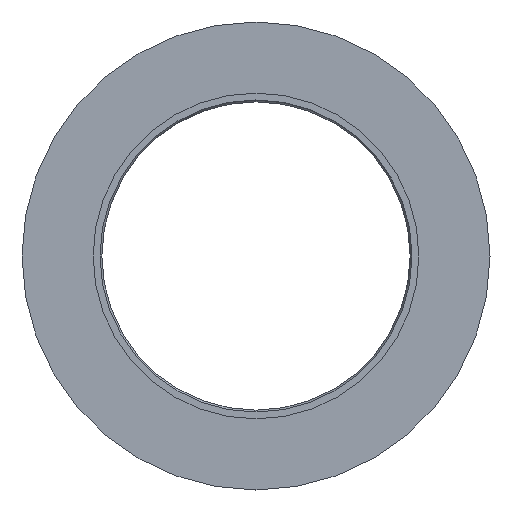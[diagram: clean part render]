
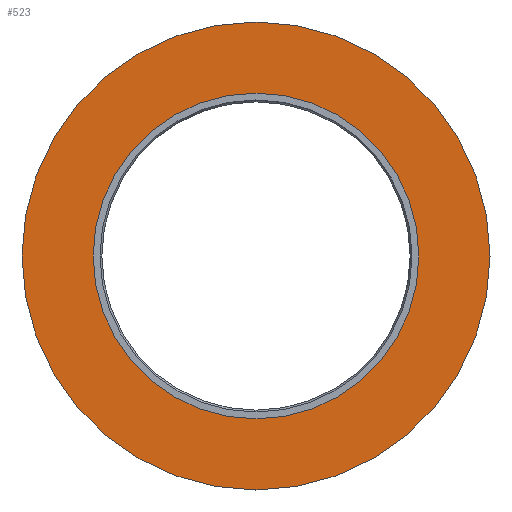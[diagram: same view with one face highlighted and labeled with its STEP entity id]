
A CAD part, left-side view. The second image highlights one B-rep face of the part: STEP entity #523.
In plain terms, the highlighted planar face has unit normal (-1, 0, 0).
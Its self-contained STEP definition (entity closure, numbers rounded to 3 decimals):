
#389=CARTESIAN_POINT('',(-16.,-37.5,0.));
#390=VERTEX_POINT('',#389);
#391=CARTESIAN_POINT('',(-16.0,0.,0.));
#392=DIRECTION('',(1.0,0.0,0.0));
#393=DIRECTION('',(0.0,-1.0,0.0));
#394=AXIS2_PLACEMENT_3D('',#391,#392,#393);
#395=CIRCLE('',#394,37.5);
#396=EDGE_CURVE('',#390,#390,#395,.T.);
#497=CARTESIAN_POINT('',(-16.,-26.1,0.));
#498=VERTEX_POINT('',#497);
#499=CARTESIAN_POINT('',(-16.0,0.,0.));
#500=DIRECTION('',(1.0,0.0,0.0));
#501=DIRECTION('',(0.0,-1.0,0.0));
#502=AXIS2_PLACEMENT_3D('',#499,#500,#501);
#503=CIRCLE('',#502,26.1);
#504=EDGE_CURVE('',#498,#498,#503,.T.);
#512=CARTESIAN_POINT('',(-16.,-31.8,0.));
#513=DIRECTION('',(-1.0,0.0,0.0));
#514=DIRECTION('',(0.0,0.0,-1.0));
#515=AXIS2_PLACEMENT_3D('',#512,#513,#514);
#516=PLANE('',#515);
#517=ORIENTED_EDGE('',*,*,#396,.F.);
#518=EDGE_LOOP('',(#517));
#519=FACE_OUTER_BOUND('',#518,.T.);
#520=ORIENTED_EDGE('',*,*,#504,.T.);
#521=EDGE_LOOP('',(#520));
#522=FACE_BOUND('',#521,.T.);
#523=ADVANCED_FACE('',(#519,#522),#516,.T.);
